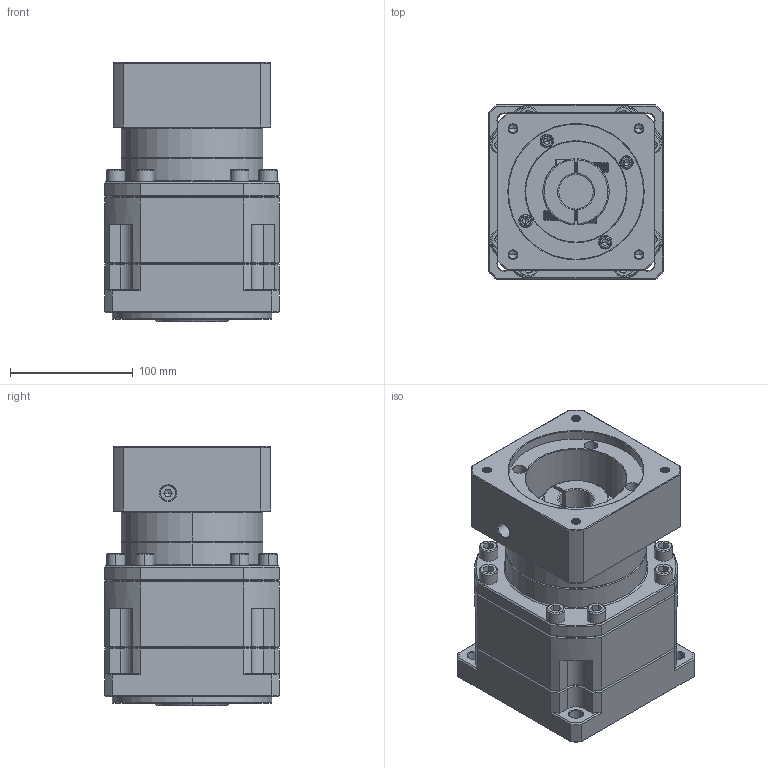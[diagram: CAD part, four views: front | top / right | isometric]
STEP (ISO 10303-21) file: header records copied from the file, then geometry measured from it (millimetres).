
FILE_DESCRIPTION (( 'STEP AP214' ), '1' );
FILE_NAME ('ZB142A-K35-L2-28-110-145-M8.step', '2023-03-18T07:08:27', ( '' ), ( '' ), 'SwSTEP 2.0', 'SolidWorks 2016', '' );
FILE_SCHEMA (( 'AUTOMOTIVE_DESIGN' ));
Length unit declared in the file: millimetre
Products named in the file (1): ZB142A-K35-L2-28-110-145-M8
Bounding box: 142 x 142 x 210.7 mm (x, y, z)
Volume: 2996303.3 mm3; surface area: 247664 mm2
Topology: 6 solids, 6 shells, 2201 faces, 5658 edges, 3576 vertices
Faces by surface type: plane 1017, cylinder 451, cone 377, bspline 300, torus 56
Entity records: 112639 total; most frequent: CARTESIAN_POINT 37339, ORIENTED_EDGE 11212, DIRECTION 9573, EDGE_CURVE 5606, VERTEX_POINT 3576, VECTOR 3521, LINE 3521, AXIS2_PLACEMENT_3D 3026
